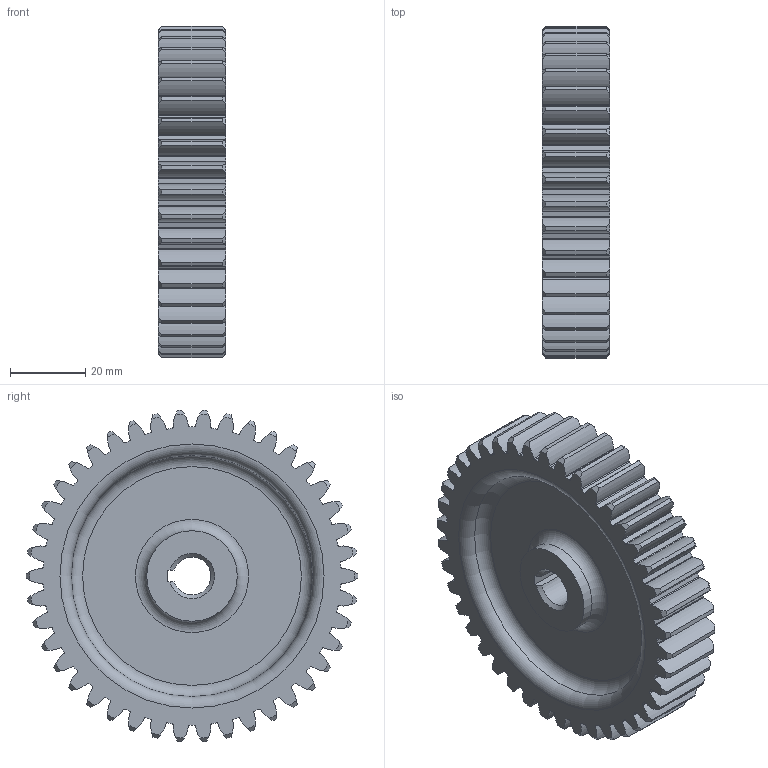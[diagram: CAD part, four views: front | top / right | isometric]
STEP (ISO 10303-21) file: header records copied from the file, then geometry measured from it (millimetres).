
FILE_DESCRIPTION(/* description */ (''),/* implementation_level */ '2;1');
FILE_NAME(/* name */ '',/* time_stamp */ '2024-09-02T11:27:01+09:00',/* author */ ('jhkim'),/* organization */ (''),/* preprocessor_version */ 'ST-DEVELOPER v20',/* originating_system */ 'Autodesk Inventor 2025',/* authorisation */ '');
FILE_SCHEMA (('AUTOMOTIVE_DESIGN { 1 0 10303 214 3 1 1 }'));
Length unit declared in the file: millimetre
Products named in the file (1): 스퍼기어
Bounding box: 18 x 88 x 87.83 mm (x, y, z)
Volume: 64271.1 mm3; surface area: 22765.7 mm2
Topology: 1 solids, 1 shells, 356 faces, 1048 edges, 698 vertices
Faces by surface type: cylinder 255, cone 86, plane 9, torus 6
Full cylindrical faces by diameter (mm): 24 x2
Entity records: 12419 total; most frequent: CARTESIAN_POINT 2615, DIRECTION 2202, ORIENTED_EDGE 2096, EDGE_CURVE 1048, AXIS2_PLACEMENT_3D 969, VERTEX_POINT 698, CIRCLE 612, EDGE_LOOP 362
